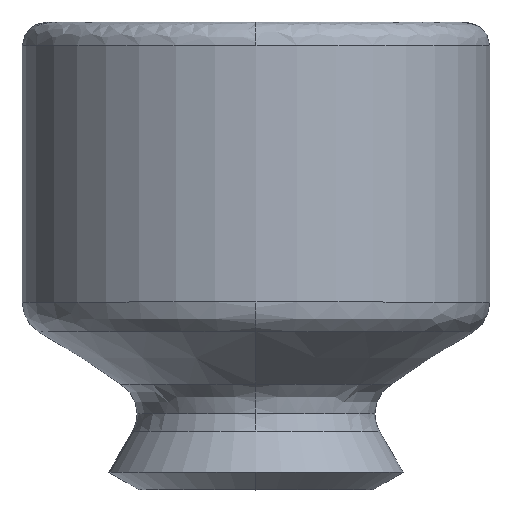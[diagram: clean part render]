
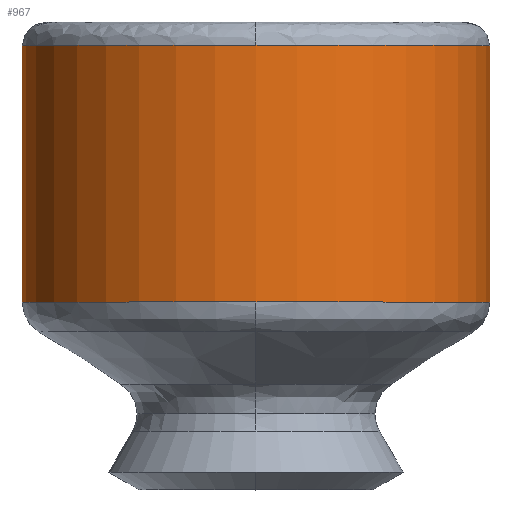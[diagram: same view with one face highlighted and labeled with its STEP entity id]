
A CAD part, top view. The second image highlights one B-rep face of the part: STEP entity #967.
In plain terms, the highlighted cylindrical face has radius 2 mm (diameter 4 mm), a partial arc.
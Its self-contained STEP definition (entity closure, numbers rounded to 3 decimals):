
#5 = EDGE_CURVE ( 'NONE', #1367, #273, #1497, .T. ) ;
#32 = EDGE_CURVE ( 'NONE', #1454, #1367, #1514, .T. ) ;
#48 = ORIENTED_EDGE ( 'NONE', *, *, #656, .T. ) ;
#71 = CARTESIAN_POINT ( 'NONE',  ( 0., -0.2, 0. ) ) ;
#85 = AXIS2_PLACEMENT_3D ( 'NONE', #71, #255, #136 ) ;
#136 = DIRECTION ( 'NONE',  ( 0., 0., 1. ) ) ;
#223 = LINE ( 'NONE', #1107, #1356 ) ;
#255 = DIRECTION ( 'NONE',  ( 0., 1., 0. ) ) ;
#273 = VERTEX_POINT ( 'NONE', #1088 ) ;
#285 = AXIS2_PLACEMENT_3D ( 'NONE', #669, #1374, #556 ) ;
#298 = FACE_OUTER_BOUND ( 'NONE', #727, .T. ) ;
#308 = ORIENTED_EDGE ( 'NONE', *, *, #452, .F. ) ;
#326 = DIRECTION ( 'NONE',  ( 0., -1., 0. ) ) ;
#341 = VERTEX_POINT ( 'NONE', #595 ) ;
#343 = DIRECTION ( 'NONE',  ( 0., -1., 0. ) ) ;
#452 = EDGE_CURVE ( 'NONE', #1308, #1454, #1427, .T. ) ;
#483 = ORIENTED_EDGE ( 'NONE', *, *, #1501, .F. ) ;
#505 = AXIS2_PLACEMENT_3D ( 'NONE', #1429, #1060, #1065 ) ;
#542 = ORIENTED_EDGE ( 'NONE', *, *, #32, .F. ) ;
#556 = DIRECTION ( 'NONE',  ( 0., 0., 1. ) ) ;
#566 = DIRECTION ( 'NONE',  ( 1., 0., 0. ) ) ;
#595 = CARTESIAN_POINT ( 'NONE',  ( 2., -2.396, 0. ) ) ;
#656 = EDGE_CURVE ( 'NONE', #341, #1507, #223, .T. ) ;
#669 = CARTESIAN_POINT ( 'NONE',  ( 0., -0.2, 0. ) ) ;
#705 = CYLINDRICAL_SURFACE ( 'NONE', #505, 2. ) ;
#727 = EDGE_LOOP ( 'NONE', ( #483, #48, #1346, #1474, #542, #308 ) ) ;
#783 = AXIS2_PLACEMENT_3D ( 'NONE', #791, #343, #566 ) ;
#791 = CARTESIAN_POINT ( 'NONE',  ( 0., -2.396, 0. ) ) ;
#800 = VECTOR ( 'NONE', #1372, 1000. ) ;
#852 = CARTESIAN_POINT ( 'NONE',  ( 2., -0.2, 0. ) ) ;
#967 = ADVANCED_FACE ( 'NONE', ( #298 ), #705, .T. ) ;
#999 = CARTESIAN_POINT ( 'NONE',  ( 0., -2.396, 0. ) ) ;
#1025 = CIRCLE ( 'NONE', #285, 2. ) ;
#1056 = AXIS2_PLACEMENT_3D ( 'NONE', #999, #326, #1131 ) ;
#1060 = DIRECTION ( 'NONE',  ( 0., 1., 0. ) ) ;
#1065 = DIRECTION ( 'NONE',  ( -1., 0., 0. ) ) ;
#1088 = CARTESIAN_POINT ( 'NONE',  ( 0., -0.2, 2. ) ) ;
#1107 = CARTESIAN_POINT ( 'NONE',  ( 2., -2.396, 0. ) ) ;
#1131 = DIRECTION ( 'NONE',  ( 0., 0., 1. ) ) ;
#1172 = CARTESIAN_POINT ( 'NONE',  ( -2., -0.2, 0. ) ) ;
#1198 = CARTESIAN_POINT ( 'NONE',  ( 0., -2.396, 2. ) ) ;
#1233 = EDGE_CURVE ( 'NONE', #273, #1507, #1025, .T. ) ;
#1244 = DIRECTION ( 'NONE',  ( 0., 1., 0. ) ) ;
#1308 = VERTEX_POINT ( 'NONE', #1198 ) ;
#1346 = ORIENTED_EDGE ( 'NONE', *, *, #1233, .F. ) ;
#1356 = VECTOR ( 'NONE', #1244, 1000. ) ;
#1367 = VERTEX_POINT ( 'NONE', #1172 ) ;
#1368 = CARTESIAN_POINT ( 'NONE',  ( -2., -2.396, 0. ) ) ;
#1372 = DIRECTION ( 'NONE',  ( 0., 1., 0. ) ) ;
#1374 = DIRECTION ( 'NONE',  ( 0., 1., 0. ) ) ;
#1427 = CIRCLE ( 'NONE', #1056, 2. ) ;
#1429 = CARTESIAN_POINT ( 'NONE',  ( 0., -2.396, 0. ) ) ;
#1454 = VERTEX_POINT ( 'NONE', #1481 ) ;
#1474 = ORIENTED_EDGE ( 'NONE', *, *, #5, .F. ) ;
#1481 = CARTESIAN_POINT ( 'NONE',  ( -2., -2.396, 0. ) ) ;
#1497 = CIRCLE ( 'NONE', #85, 2. ) ;
#1501 = EDGE_CURVE ( 'NONE', #341, #1308, #1520, .T. ) ;
#1507 = VERTEX_POINT ( 'NONE', #852 ) ;
#1514 = LINE ( 'NONE', #1368, #800 ) ;
#1520 = CIRCLE ( 'NONE', #783, 2. ) ;
